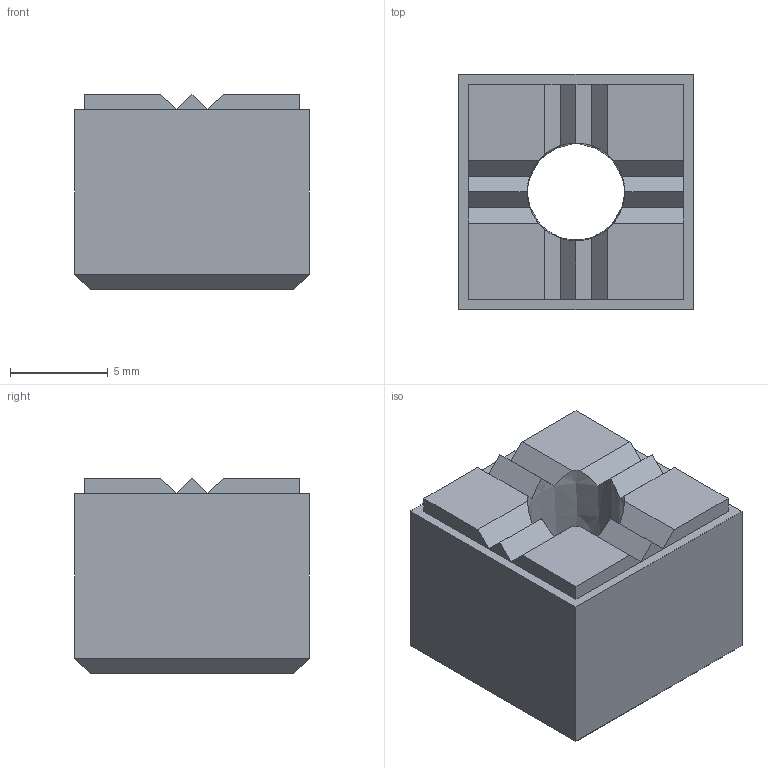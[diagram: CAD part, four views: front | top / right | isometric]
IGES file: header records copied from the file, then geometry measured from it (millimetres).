
Start section: SolidWorks IGES FILE using analytic representation for surfaces
Global section: file name: C:\WIX2\Positioning\3546\3546W003.igs; native system: SolidWorks 2003 by SolidWorks Corporation; preprocessor: Version 5.3; author: Joan; date: 030722.143902; units: millimetre
Bounding box: 12 x 12 x 10 mm (x, y, z)
Surface area: 865.3 mm2 (no closed solid volume)
Topology: 0 solids, 0 shells, 44 faces, 270 edges, 270 vertices
Faces by surface type: bspline 42, revolution 2
